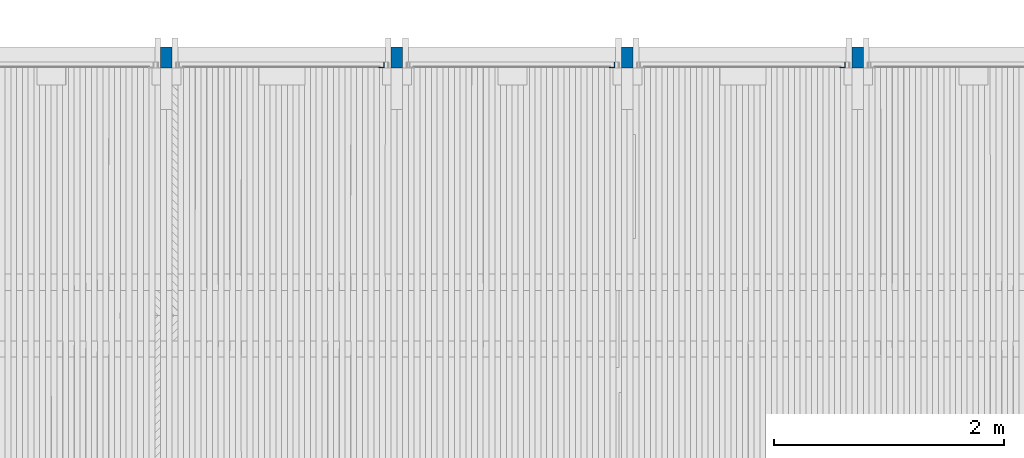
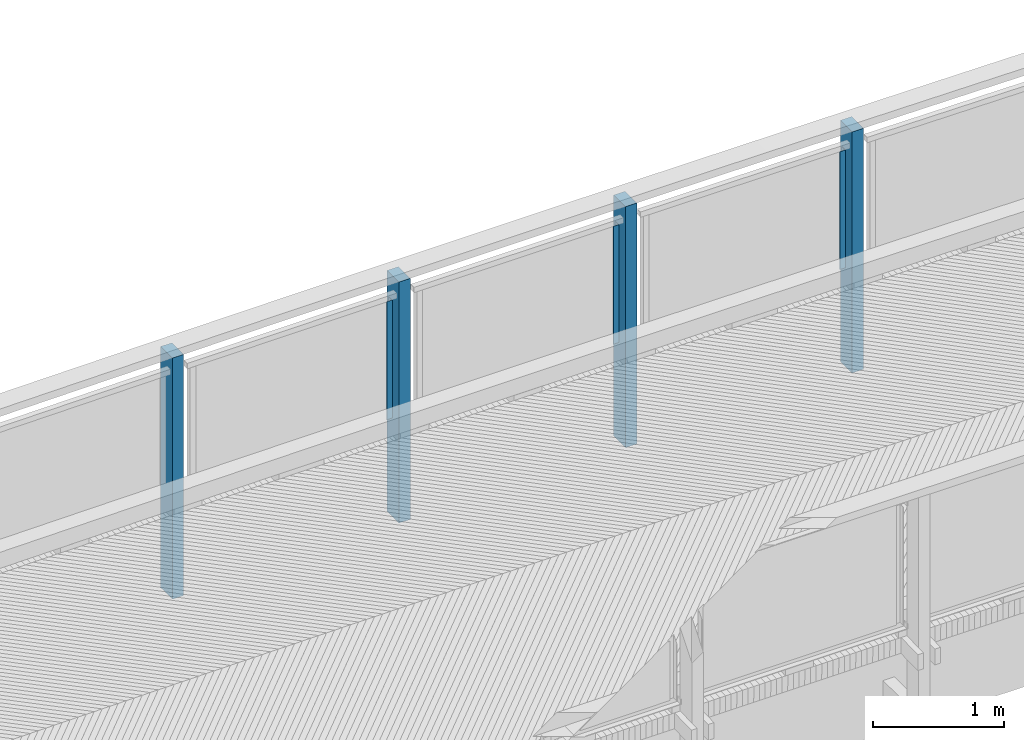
# One storey, part 9 of 65: 7 columns.
"""IFC2X3 building model written with IfcOpenShell, lengths in millimetres."""

from ifc_helpers import new_model, si_unit, frame, origin_with_axes, place, context, subcontext, project, spatial, faceted_brep, material, type_object, element, save


model = new_model("IFC2X3")

# Units and contexts
model_context = context("Model", 3, precision=1e-05, world=origin_with_axes())
body_context = subcontext(model_context, "Body", "Model", "MODEL_VIEW")
ifc_project = project(units=[si_unit("LENGTHUNIT", "METRE", prefix="MILLI"), si_unit("AREAUNIT", "SQUARE_METRE"), si_unit("VOLUMEUNIT", "CUBIC_METRE"), si_unit("MASSUNIT", "GRAM", prefix="KILO"), si_unit("TIMEUNIT", "SECOND"), si_unit("PLANEANGLEUNIT", "RADIAN"), si_unit("SOLIDANGLEUNIT", "STERADIAN"), si_unit("THERMODYNAMICTEMPERATUREUNIT", "DEGREE_CELSIUS"), si_unit("LUMINOUSINTENSITYUNIT", "LUMEN")], contexts=[model_context])

# Site, building, storey
site_placement = place(None, origin_with_axes())
site = spatial("IfcSite", under=ifc_project, at=site_placement, Name="Undefined", CompositionType="ELEMENT")
building_placement = place(site_placement, origin_with_axes())
building = spatial("IfcBuilding", under=site, at=building_placement, Name="Undefined", CompositionType="ELEMENT")
storey_placement = place(building_placement, origin_with_axes())
storey = spatial("IfcBuildingStorey", under=building, at=storey_placement, Name="Undefined", CompositionType="ELEMENT", Elevation=0.0)

# Columns
ifc_material_1 = material(Name="TIMBER/Timber_Undefined")
column_type_1 = type_object("IfcColumnType", Name="180*100", PredefinedType="NOTDEFINED")
for number, where, z_axis, x_axis in (
    (1, (10000.0000678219, 24604.9879080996, 2309.97693042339), (0.0, -1.0, 0.0), (0.0, 0.0, 1.0)),
    (2, (8000.00006782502, 24604.9879080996, 2313.29124390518), (0.0, -1.0, 0.0), (0.0, 0.0, 1.0)),
    (3, (6000.00006782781, 24604.9879080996, 2309.97693031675), (0.0, -1.0, 0.0), (0.0, 0.0, 1.0)),
    (4, (4000.00006783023, 24604.9879080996, 2300.03388043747), (0.0, -1.0, 0.0), (0.0, 0.0, 1.0)),
):
    element("IfcColumn", number, at=place(storey_placement, frame(where, z_axis=z_axis, x_axis=x_axis)), inside=storey, type_object=column_type_1, material=ifc_material_1, Name="KAIDEPYLVÄS", ObjectType="180*100", context=body_context, shape_type="Brep", body=[
        faceted_brep([(0.0, 50.0, -90.0), (0.0, 50.0, 90.0), (2250.0, 50.0, 90.0), (2250.0, 50.0, -90.0), (0.0, -50.0, 90.0), (2250.0, -50.0, 90.0), (0.0, -50.0, -90.0), (2250.0, -50.0, -90.0)], [[[0, 1, 2, 3]], [[1, 4, 5, 2]], [[4, 6, 7, 5]], [[6, 0, 3, 7]], [[5, 7, 3, 2]], [[6, 4, 1, 0]]]),
    ])
ifc_material_2 = material(Name="STEEL/S235JR")
column_type_2 = type_object("IfcColumnType", Name="L50*5", PredefinedType="NOTDEFINED")
for number, where, z_axis, x_axis, name in (
    (5, (9867.50249484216, 24539.9900000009, 3313.27136894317), (0.0, 1.0, 0.0), (0.0, 0.0, 1.0), "BEAM"),
    (6, (7867.50249484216, 24539.9900000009, 3316.2316100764), (0.0, 1.0, 0.0), (0.0, 0.0, 1.0), "BEAM"),
):
    element("IfcColumn", number, at=place(storey_placement, frame(where, z_axis=z_axis, x_axis=x_axis)), inside=storey, type_object=column_type_2, material=ifc_material_2, Name=name, ObjectType="L50*5", context=body_context, shape_type="Brep", body=[
        faceted_brep([(0.0, 25.0, -25.0), (0.0, 25.0, 25.0), (1100.00065383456, 25.0, 25.0), (1100.00065383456, 25.0, -25.0), (0.0, 20.0, 25.0), (1100.00065383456, 20.0, 25.0), (0.0, 20.0, -20.0), (1100.00065383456, 20.0, -20.0), (0.0, -25.0, -20.0), (1100.00065383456, -25.0, -20.0), (0.0, -25.0, -25.0), (1100.00065383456, -25.0, -25.0)], [[[0, 1, 2, 3]], [[1, 4, 5, 2]], [[4, 6, 7, 5]], [[6, 8, 9, 7]], [[8, 10, 11, 9]], [[10, 0, 3, 11]], [[5, 7, 9, 11, 3, 2]], [[10, 8, 6, 4, 1, 0]]]),
    ])
column_placement = place(storey_placement, frame((5867.50249484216, 24539.9900000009, 3312.55876202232), z_axis=(0.0, 1.0, 0.0), x_axis=(0.0, 0.0, 1.0)))
element("IfcColumn", 7, at=column_placement, inside=storey, type_object=column_type_2, material=ifc_material_2, Name="BEAM", ObjectType="L50*5", context=body_context, shape_type="Brep", body=[
    faceted_brep([(0.0, 25.0, -25.0), (0.0, 25.0, 25.0), (1099.9997751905, 25.0, 25.0), (1099.9997751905, 25.0, -25.0), (0.0, 20.0, 25.0), (1099.9997751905, 20.0, 25.0), (0.0, 20.0, -20.0), (1099.9997751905, 20.0, -20.0), (0.0, -25.0, -20.0), (1099.9997751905, -25.0, -20.0), (0.0, -25.0, -25.0), (1099.9997751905, -25.0, -25.0)], [[[0, 1, 2, 3]], [[1, 4, 5, 2]], [[4, 6, 7, 5]], [[6, 8, 9, 7]], [[8, 10, 11, 9]], [[10, 0, 3, 11]], [[5, 7, 9, 11, 3, 2]], [[10, 8, 6, 4, 1, 0]]]),
])

save(model, "model.ifc")
